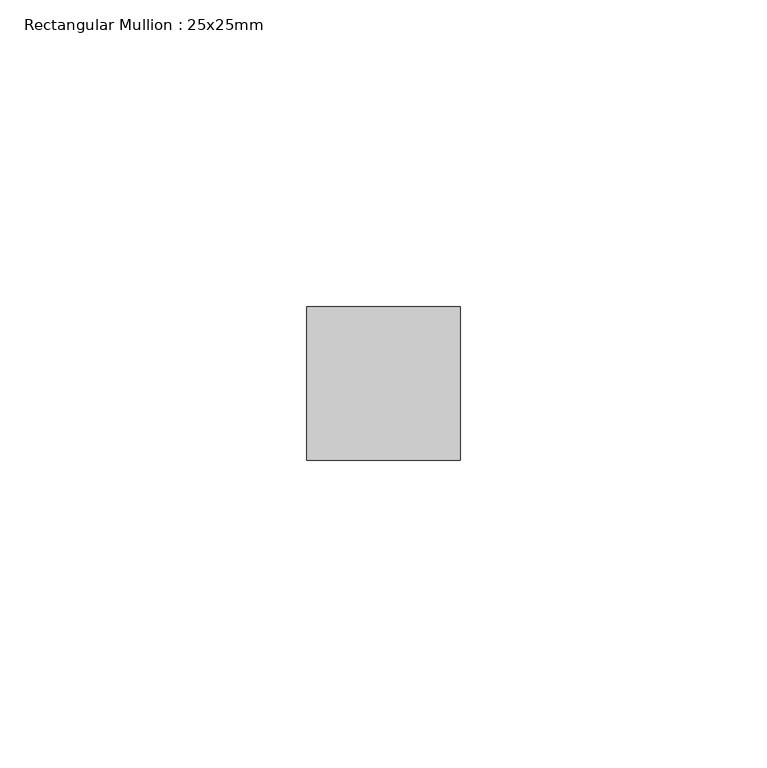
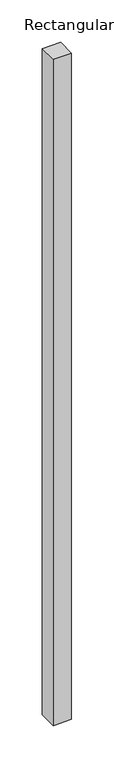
"""IFC4 building model written with IfcOpenShell, lengths in millimetres: member geometry, Rectangular Mullion : 25x25mm."""

from ifc_helpers import new_model, si_unit, frame, origin, place, context, project, spatial, polyline, outline, extrude, source, transform, mapped, element, save


def rectangular_mullion_25x25mm_fa73f4b8(model_context):
    return source(origin(), model_context, "Body", "SweptSolid", [
        extrude(outline(polyline([(0.0, 0.5), (0.0, -24.5), (-25.0, -24.5), (-25.0, 0.5), (0.0, 0.5)])), frame((0.0, 0.0, -957.5), z_axis=(0.0, 0.0, 1.0), x_axis=(1.0, 0.0, 0.0)), (0.0, 0.0, 1.0), 957.5),
    ])


if __name__ == "__main__":
    model = new_model("IFC4")
    model_context = context("Model", 3, world=origin())
    ifc_project = project(units=[si_unit("LENGTHUNIT", "METRE", prefix="MILLI")], contexts=[model_context])
    site = spatial("IfcSite", under=ifc_project)
    building = spatial("IfcBuilding", under=site)
    placement = place(None, origin())
    rectangular_mullion_25x25mm_shape = rectangular_mullion_25x25mm_fa73f4b8(model_context)
    element("IfcMember", 1, ObjectType="Rectangular Mullion : 25x25mm", at=placement, inside=building, context=model_context, shape_type="MappedRepresentation", body=[
        mapped(rectangular_mullion_25x25mm_shape, transform((0.0, 0.0, 0.0), x_axis=(1.0, 0.0, 0.0), y_axis=(0.0, 1.0, 0.0), z_axis=(0.0, 0.0, 1.0))),
    ])
    save(model, "model.ifc")
